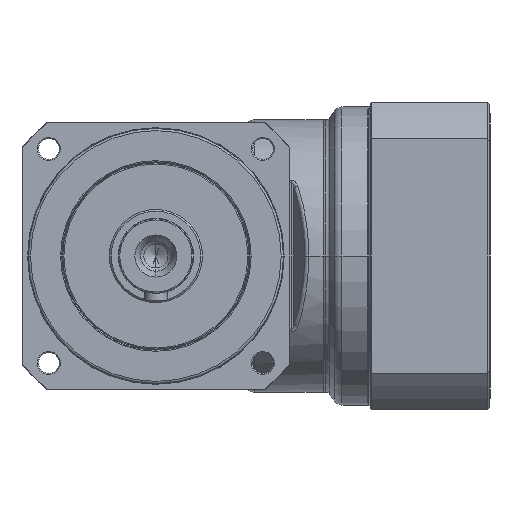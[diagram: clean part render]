
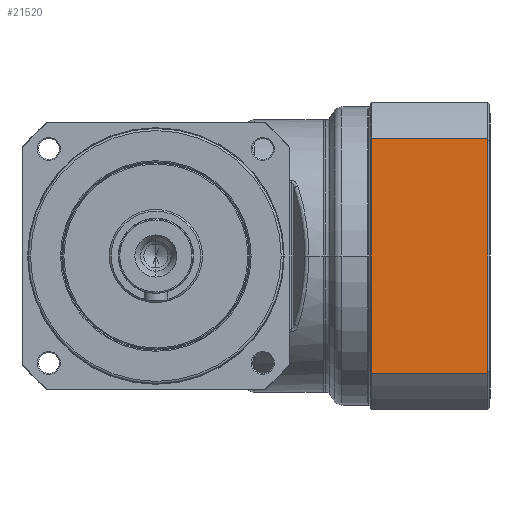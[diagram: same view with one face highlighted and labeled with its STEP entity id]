
A CAD part, left-side view. The second image highlights one B-rep face of the part: STEP entity #21520.
In plain terms, the highlighted planar face has unit normal (-1, 0, 0) as drawn and (0, -1, 0) by its records, which use the part's own axes.
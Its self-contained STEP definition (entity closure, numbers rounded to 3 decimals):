
#20283=DIRECTION('',(1.,0.,0.));
#20284=VECTOR('',#20283,100.658);
#20285=CARTESIAN_POINT('',(-50.329,-66.,53.));
#20286=LINE('',#20285,#20284);
#20287=DIRECTION('',(0.,0.,1.));
#20288=VECTOR('',#20287,50.1);
#20289=CARTESIAN_POINT('',(50.329,-66.,
2.9));
#20290=LINE('',#20289,#20288);
#20291=DIRECTION('',(1.,0.,0.));
#20292=VECTOR('',#20291,100.658);
#20293=CARTESIAN_POINT('',(-50.329,-66.,
2.9));
#20294=LINE('',#20293,#20292);
#20295=DIRECTION('',(0.,0.,1.));
#20296=VECTOR('',#20295,50.1);
#20297=CARTESIAN_POINT('',(-50.329,-66.,
2.9));
#20298=LINE('',#20297,#20296);
#20304=CARTESIAN_POINT('',(50.329,-66.,53.));
#20619=CARTESIAN_POINT('',(-50.329,-66.,2.9));
#20621=VERTEX_POINT('',#20619);
#20624=CARTESIAN_POINT('',(50.329,-66.,
2.9));
#20625=VERTEX_POINT('',#20624);
#20671=CARTESIAN_POINT('',(-50.329,-66.,53.));
#20673=VERTEX_POINT('',#20671);
#20681=VERTEX_POINT('',#20304);
#21508=CARTESIAN_POINT('',(-66.,-66.,0.));
#21509=DIRECTION('',(0.,-1.,0.));
#21510=DIRECTION('',(1.,0.,0.));
#21511=AXIS2_PLACEMENT_3D('',#21508,#21509,#21510);
#21512=PLANE('',#21511);
#21514=ORIENTED_EDGE('',*,*,#21513,.T.);
#21515=ORIENTED_EDGE('',*,*,#21424,.F.);
#21516=ORIENTED_EDGE('',*,*,#21502,.F.);
#21517=ORIENTED_EDGE('',*,*,#21435,.T.);
#21518=EDGE_LOOP('',(#21514,#21515,#21516,#21517));
#21519=FACE_OUTER_BOUND('',#21518,.F.);
#21520=ADVANCED_FACE('',(#21519),#21512,.T.);
#21424=EDGE_CURVE('',#20625,#20681,#20290,.T.);
#21435=EDGE_CURVE('',#20621,#20673,#20298,.T.);
#21502=EDGE_CURVE('',#20621,#20625,#20294,.T.);
#21513=EDGE_CURVE('',#20673,#20681,#20286,.T.);
